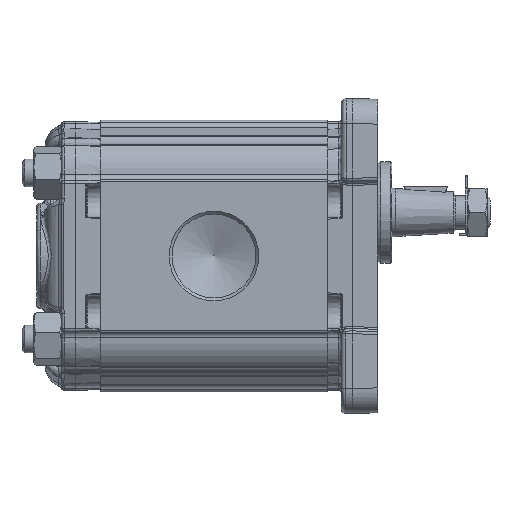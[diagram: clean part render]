
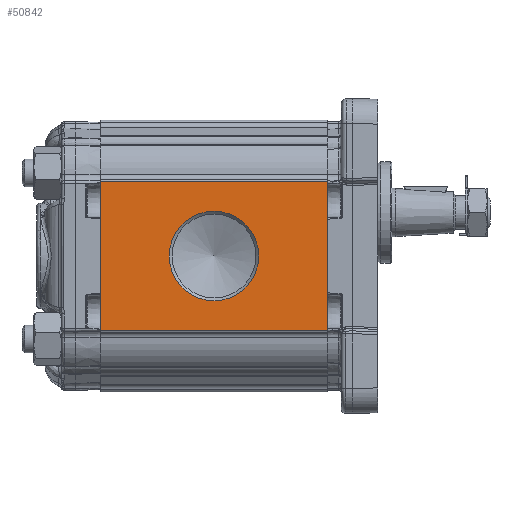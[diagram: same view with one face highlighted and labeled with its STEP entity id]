
A CAD part, left-side view. The second image highlights one B-rep face of the part: STEP entity #50842.
In plain terms, the highlighted planar face has unit normal (-1, 0, 0).
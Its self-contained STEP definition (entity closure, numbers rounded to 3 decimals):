
#3396=PLANE('',#53955);
#4350=LINE('',#73366,#6090);
#4364=LINE('',#73511,#6104);
#4384=LINE('',#73551,#6124);
#4385=LINE('',#73555,#6125);
#6090=VECTOR('',#59528,1000.);
#6104=VECTOR('',#59660,1000.);
#6124=VECTOR('',#59712,1000.);
#6125=VECTOR('',#59717,1000.);
#11267=ORIENTED_EDGE('',*,*,#19816,.T.);
#11268=ORIENTED_EDGE('',*,*,#19791,.F.);
#11269=ORIENTED_EDGE('',*,*,#19815,.F.);
#11270=ORIENTED_EDGE('',*,*,#19719,.T.);
#11271=ORIENTED_EDGE('',*,*,#19817,.T.);
#19719=EDGE_CURVE('',#24296,#24295,#4350,.T.);
#19791=EDGE_CURVE('',#24367,#24368,#4364,.T.);
#19815=EDGE_CURVE('',#24296,#24367,#4384,.T.);
#19816=EDGE_CURVE('',#24372,#24372,#27230,.F.);
#19817=EDGE_CURVE('',#24295,#24368,#4385,.T.);
#24295=VERTEX_POINT('',#73365);
#24296=VERTEX_POINT('',#73367);
#24367=VERTEX_POINT('',#73510);
#24368=VERTEX_POINT('',#73512);
#24372=VERTEX_POINT('',#73554);
#27230=CIRCLE('',#53956,16.146);
#29039=EDGE_LOOP('',(#11267));
#29040=EDGE_LOOP('',(#11268,#11269,#11270,#11271));
#31706=FACE_BOUND('',#29039,.T.);
#31707=FACE_BOUND('',#29040,.T.);
#50842=ADVANCED_FACE('',(#31706,#31707),#3396,.T.);
#53955=AXIS2_PLACEMENT_3D('',#73552,#59713,#59714);
#53956=AXIS2_PLACEMENT_3D('',#73553,#59715,#59716);
#59528=DIRECTION('',(0.,0.,-1.));
#59660=DIRECTION('',(0.,0.,-1.));
#59712=DIRECTION('',(0.,-1.,0.));
#59713=DIRECTION('',(-1.,0.,0.));
#59714=DIRECTION('',(0.,0.,1.));
#59715=DIRECTION('',(-1.,0.,0.));
#59716=DIRECTION('',(0.,0.,1.));
#59717=DIRECTION('',(0.,-1.,0.));
#73365=CARTESIAN_POINT('',(-43.,82.,-27.048));
#73366=CARTESIAN_POINT('',(-43.,82.,27.048));
#73367=CARTESIAN_POINT('',(-43.,82.,27.048));
#73510=CARTESIAN_POINT('',(-43.,0.,27.048));
#73511=CARTESIAN_POINT('',(-43.,0.,27.048));
#73512=CARTESIAN_POINT('',(-43.,0.,-27.048));
#73551=CARTESIAN_POINT('',(-43.,82.,27.048));
#73552=CARTESIAN_POINT('',(-43.,82.,27.048));
#73553=CARTESIAN_POINT('',(-43.,41.,0.));
#73554=CARTESIAN_POINT('',(-43.,41.,16.146));
#73555=CARTESIAN_POINT('',(-43.,82.,-27.048));
